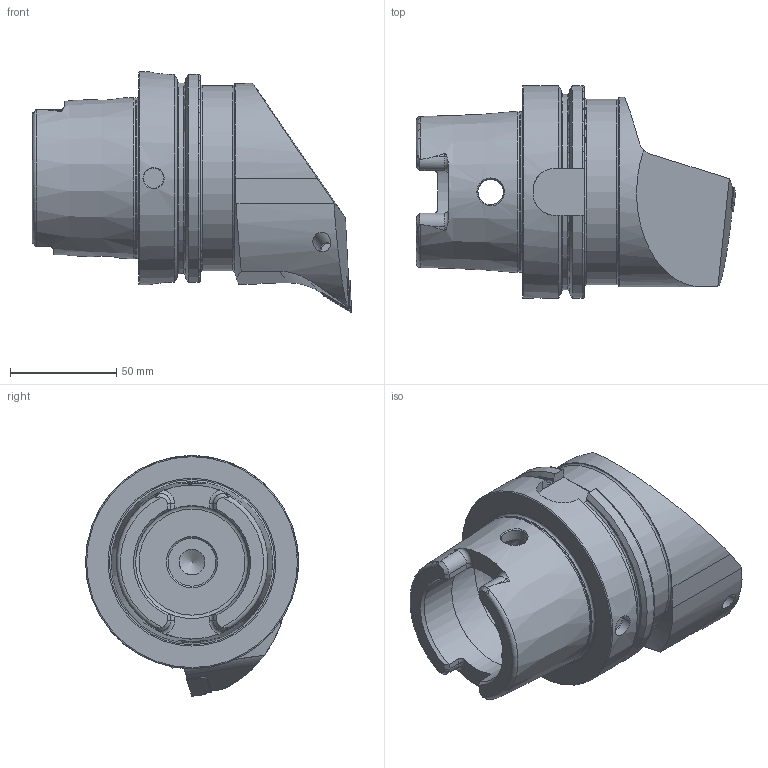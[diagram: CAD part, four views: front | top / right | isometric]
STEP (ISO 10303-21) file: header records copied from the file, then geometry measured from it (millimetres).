
FILE_DESCRIPTION (( 'STEP AP214' ), '1' );
FILE_NAME ('HA0.PDF.RUA.100.STEP', '2020-10-13T12:59:04', ( '' ), ( '' ), 'SwSTEP 2.0', 'SolidWorks 2017', '' );
FILE_SCHEMA (( 'AUTOMOTIVE_DESIGN' ));
Length unit declared in the file: millimetre
Products named in the file (8): KVT_MB_600_060; WDF-ER2.101.003_A; HA0.PDF.RUA.100; WDF-ER3.101.000_A; HA0-PDF.RUA.100_A_Fertigbearbeitung; WCD-ER1.101.000; WCD-ER4.101.017_A; DNMG150604
Assembly tree (7 placements, depth 2):
  HA0.PDF.RUA.100
    HA0-PDF.RUA.100_A_Fertigbearbeitung
    KVT_MB_600_060
    DNMG150604
    WDF-ER2.101.003_A
    WCD-ER4.101.017_A
    WDF-ER3.101.000_A
    WCD-ER1.101.000
Bounding box: 149.9 x 100 x 113 mm (x, y, z)
Volume: 530989.7 mm3; surface area: 70990.3 mm2
Topology: 8 solids, 8 shells, 290 faces, 738 edges, 461 vertices
Faces by surface type: plane 115, cylinder 70, cone 60, torus 30, bspline 14, sphere 1
Full cylindrical faces by diameter (mm): 3.55 x1, 4.7 x1, 5 x3, 5.16 x1, 6 x3, 6.4 x2, 7 x1, 7.9 x2, 8 x1, 8.4 x1, 10 x1, 12 x3, 22.5 x1, 26 x1, 53 x2, 63 x1, 75.265 x1, 87 x1, 100 x1
Entity records: 11661 total; most frequent: CARTESIAN_POINT 4008, ORIENTED_EDGE 1286, DIRECTION 1260, EDGE_CURVE 643, AXIS2_PLACEMENT_3D 497, VERTEX_POINT 441, EDGE_LOOP 378, FACE_OUTER_BOUND 330
